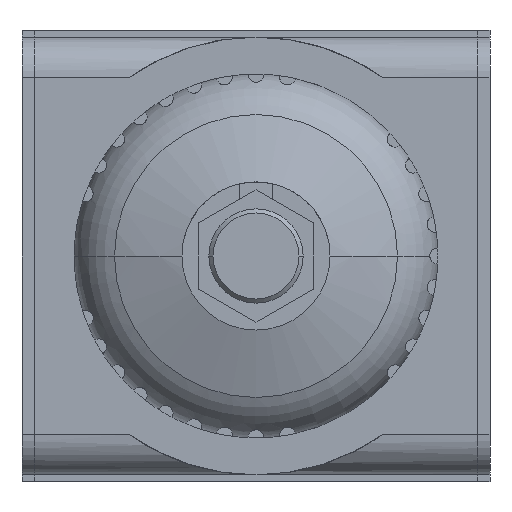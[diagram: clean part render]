
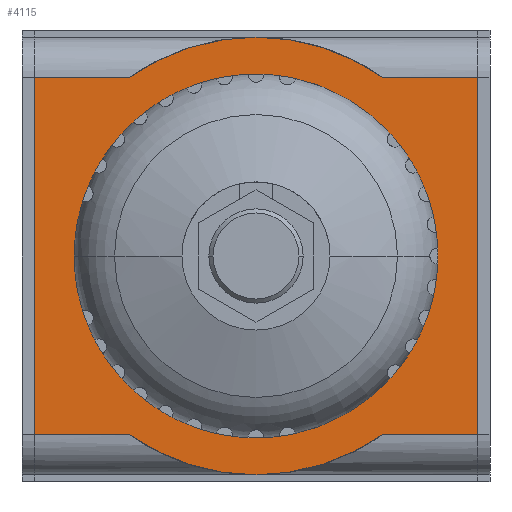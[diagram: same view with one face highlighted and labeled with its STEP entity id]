
A CAD part, front view. The second image highlights one B-rep face of the part: STEP entity #4115.
In plain terms, the highlighted planar face has unit normal (0, -1, 0).
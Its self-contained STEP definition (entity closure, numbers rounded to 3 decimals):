
#68=DIRECTION('',(0.,0.,-1.));
#69=VECTOR('',#68,53.);
#70=CARTESIAN_POINT('',(-32.95,0.,26.5));
#71=LINE('',#70,#69);
#342=DIRECTION('',(0.,0.,-1.));
#343=VECTOR('',#342,53.);
#344=CARTESIAN_POINT('',(32.95,0.,26.5));
#345=LINE('',#344,#343);
#995=CARTESIAN_POINT('',(0.,0.,0.));
#996=DIRECTION('',(0.,1.,0.));
#997=DIRECTION('',(-0.579,0.,0.815));
#998=AXIS2_PLACEMENT_3D('',#995,#996,#997);
#1000=DIRECTION('',(1.,0.,0.));
#1001=VECTOR('',#1000,14.135);
#1002=CARTESIAN_POINT('',(-32.95,0.,26.5));
#1003=LINE('',#1002,#1001);
#1004=DIRECTION('',(1.,0.,0.));
#1005=VECTOR('',#1004,14.135);
#1006=CARTESIAN_POINT('',(18.815,0.,26.5));
#1007=LINE('',#1006,#1005);
#1008=DIRECTION('',(1.,0.,0.));
#1009=VECTOR('',#1008,14.135);
#1010=CARTESIAN_POINT('',(-32.95,0.,-26.5));
#1011=LINE('',#1010,#1009);
#1026=DIRECTION('',(1.,0.,0.));
#1027=VECTOR('',#1026,14.135);
#1028=CARTESIAN_POINT('',(18.815,0.,-26.5));
#1029=LINE('',#1028,#1027);
#1044=CARTESIAN_POINT('',(0.,0.,0.));
#1045=DIRECTION('',(0.,1.,0.));
#1046=DIRECTION('',(0.579,0.,-0.815));
#1047=AXIS2_PLACEMENT_3D('',#1044,#1045,#1046);
#2311=CARTESIAN_POINT('',(-32.95,0.,26.5));
#2312=VERTEX_POINT('',#2311);
#2313=CARTESIAN_POINT('',(-32.95,0.,-26.5));
#2314=VERTEX_POINT('',#2313);
#2343=CARTESIAN_POINT('',(32.95,0.,26.5));
#2344=VERTEX_POINT('',#2343);
#2345=CARTESIAN_POINT('',(32.95,0.,-26.5));
#2346=VERTEX_POINT('',#2345);
#2371=CARTESIAN_POINT('',(-18.815,0.,26.5));
#2372=VERTEX_POINT('',#2371);
#2373=CARTESIAN_POINT('',(18.815,0.,26.5));
#2374=VERTEX_POINT('',#2373);
#2375=CARTESIAN_POINT('',(-18.815,0.,-26.5));
#2376=VERTEX_POINT('',#2375);
#2377=CARTESIAN_POINT('',(18.815,0.,-26.5));
#2378=VERTEX_POINT('',#2377);
#4097=CARTESIAN_POINT('',(-32.95,0.,26.5));
#4098=DIRECTION('',(0.,-1.,0.));
#4099=DIRECTION('',(0.,0.,-1.));
#4100=AXIS2_PLACEMENT_3D('',#4097,#4098,#4099);
#4101=PLANE('',#4100);
#4103=ORIENTED_EDGE('',*,*,#4102,.F.);
#4105=ORIENTED_EDGE('',*,*,#4104,.T.);
#4107=ORIENTED_EDGE('',*,*,#4106,.F.);
#4108=ORIENTED_EDGE('',*,*,#3000,.F.);
#4109=ORIENTED_EDGE('',*,*,#4065,.T.);
#4110=ORIENTED_EDGE('',*,*,#4090,.T.);
#4111=ORIENTED_EDGE('',*,*,#4078,.T.);
#4112=ORIENTED_EDGE('',*,*,#3220,.T.);
#4113=EDGE_LOOP('',(#4103,#4105,#4107,#4108,#4109,#4110,#4111,#4112));
#4114=FACE_OUTER_BOUND('',#4113,.F.);
#4115=ADVANCED_FACE('',(#4114),#4101,.T.);
#999=CIRCLE('',#998,32.5);
#1048=CIRCLE('',#1047,32.5);
#3000=EDGE_CURVE('',#2312,#2314,#71,.T.);
#3220=EDGE_CURVE('',#2344,#2346,#345,.T.);
#4065=EDGE_CURVE('',#2312,#2372,#1003,.T.);
#4078=EDGE_CURVE('',#2374,#2344,#1007,.T.);
#4090=EDGE_CURVE('',#2372,#2374,#999,.T.);
#4102=EDGE_CURVE('',#2378,#2346,#1029,.T.);
#4104=EDGE_CURVE('',#2378,#2376,#1048,.T.);
#4106=EDGE_CURVE('',#2314,#2376,#1011,.T.);
